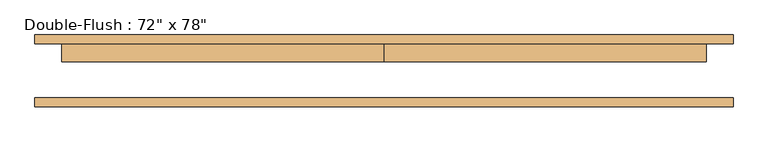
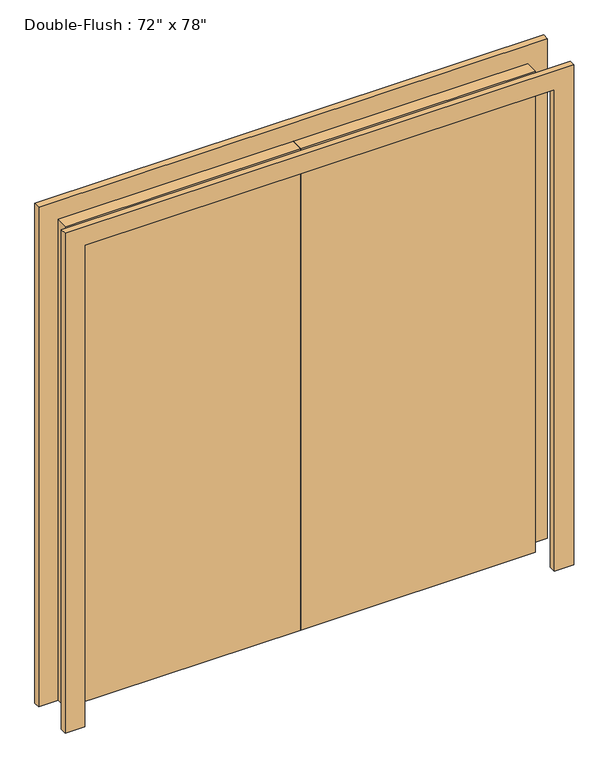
"""IFC4 building model written with IfcOpenShell, lengths in millimetres: door geometry."""

from ifc_helpers import new_model, si_unit, frame, origin, origin_with_axes, place, context, project, spatial, polyline, outline, extrude, source, transform, mapped, element, save


def door_28e03101(model_context):
    return source(origin(), model_context, "Body", "SweptSolid", [
        extrude(outline(polyline([(0.0, 76.2), (914.4, 76.2), (914.4, 25.4), (0.0, 25.4), (0.0, 76.2)])), origin_with_axes(), (0.0, 0.0, 1.0), 1981.2),
        extrude(outline(polyline([(-914.4, 76.2), (0.0, 76.2), (0.0, 25.4), (-914.4, 25.4), (-914.4, 76.2)])), origin_with_axes(), (0.0, 0.0, 1.0), 1981.2),
        extrude(outline(polyline([(1981.2, -914.4), (1981.2, 914.4), (0.0, 914.4), (0.0, 990.6), (2057.4, 990.6), (2057.4, -990.6), (0.0, -990.6), (0.0, -914.4), (1981.2, -914.4)])), frame((0.0, -101.6, 0.0), z_axis=(0.0, 1.0, 0.0), x_axis=(0.0, 0.0, 1.0)), (0.0, 0.0, 1.0), 25.4),
        extrude(outline(polyline([(1981.2, -914.4), (1981.2, 914.4), (0.0, 914.4), (0.0, 990.6), (2057.4, 990.6), (2057.4, -990.6), (0.0, -990.6), (0.0, -914.4), (1981.2, -914.4)])), frame((0.0, 76.2, 0.0), z_axis=(0.0, 1.0, 0.0), x_axis=(0.0, 0.0, 1.0)), (0.0, 0.0, 1.0), 25.4),
    ])


if __name__ == "__main__":
    model = new_model("IFC4")
    model_context = context("Model", 3, world=origin())
    ifc_project = project(units=[si_unit("LENGTHUNIT", "METRE", prefix="MILLI")], contexts=[model_context])
    site = spatial("IfcSite", under=ifc_project)
    building = spatial("IfcBuilding", under=site)
    placement = place(None, origin())
    door_shape = door_28e03101(model_context)
    element("IfcDoor", 1, ObjectType="Double-Flush : 72\" x 78\"", at=placement, inside=building, context=model_context, shape_type="MappedRepresentation", body=[
        mapped(door_shape, transform((0.0, 0.0, 0.0), x_axis=(1.0, 0.0, 0.0), y_axis=(0.0, 1.0, 0.0), z_axis=(0.0, 0.0, 1.0))),
    ])
    save(model, "model.ifc")
